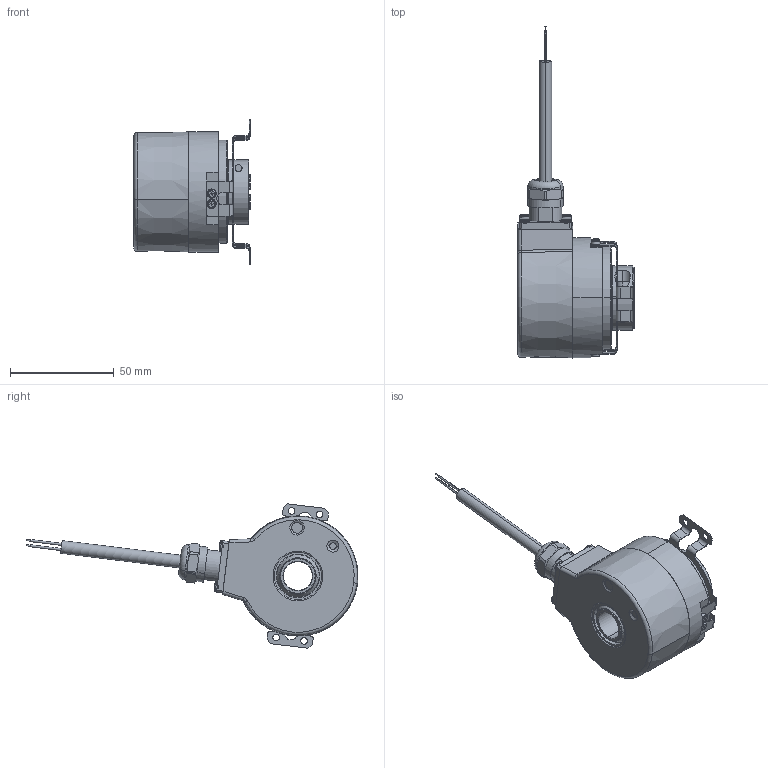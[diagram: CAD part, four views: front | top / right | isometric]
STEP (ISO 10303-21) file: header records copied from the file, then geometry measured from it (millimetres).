
FILE_DESCRIPTION (( 'STEP AP214' ), '1' );
FILE_NAME ('5834SIL.B5X2.XXXX.STEP', '2010-11-18T13:08:00', ( 'admin' ), ( 'Fritz Kübler GmbH' ), 'SwSTEP 2.0', 'SolidWorks 2009', '' );
FILE_SCHEMA (( 'AUTOMOTIVE_DESIGN' ));
Length unit declared in the file: millimetre
Products named in the file (1): 5834SIL.B5X2.XXXX
Bounding box: 56 x 160.21 x 69.69 mm (x, y, z)
Surface area: 28238.9 mm2 (no closed solid volume)
Topology: 0 solids, 22 shells, 488 faces, 1364 edges, 888 vertices
Faces by surface type: plane 232, cylinder 147, cone 64, torus 30, sphere 8, bspline 7
Entity records: 22375 total; most frequent: CARTESIAN_POINT 4282, DIRECTION 2798, ORIENTED_EDGE 2431, EDGE_CURVE 1364, AXIS2_PLACEMENT_3D 1050, VERTEX_POINT 888, LINE 698, VECTOR 698
